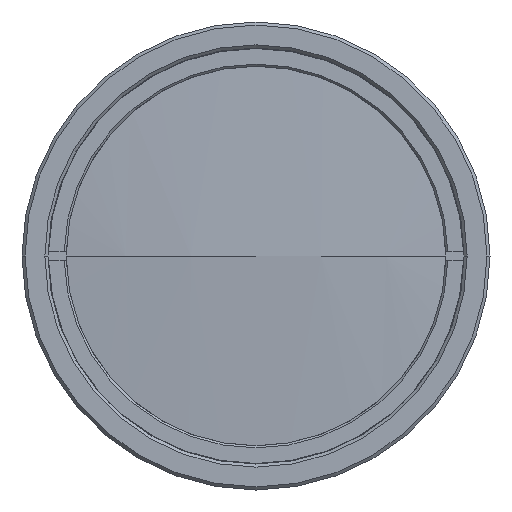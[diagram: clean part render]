
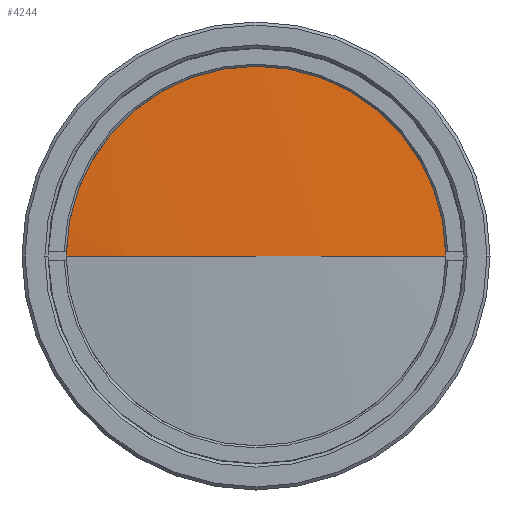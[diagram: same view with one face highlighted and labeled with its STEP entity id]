
A CAD part, left-side view. The second image highlights one B-rep face of the part: STEP entity #4244.
In plain terms, the highlighted spherical face has radius 206.634 mm.
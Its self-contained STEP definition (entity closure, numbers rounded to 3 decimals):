
#1652=CARTESIAN_POINT('',(-62.905,0.,0.));
#1653=DIRECTION('',(1.,0.,0.));
#1654=DIRECTION('',(0.,1.,0.));
#1655=AXIS2_PLACEMENT_3D('',#1652,#1653,#1654);
#1657=CARTESIAN_POINT('',(142.873,0.,0.));
#1658=DIRECTION('',(0.,0.,1.));
#1659=DIRECTION('',(-0.996,0.091,0.));
#1660=AXIS2_PLACEMENT_3D('',#1657,#1658,#1659);
#1662=CARTESIAN_POINT('',(142.873,0.,0.));
#1663=DIRECTION('',(0.,0.,-1.));
#1664=DIRECTION('',(-0.996,-0.091,0.));
#1665=AXIS2_PLACEMENT_3D('',#1662,#1663,#1664);
#1954=CARTESIAN_POINT('',(-62.905,18.78,0.));
#1955=CARTESIAN_POINT('',(-63.761,0.,0.));
#1956=VERTEX_POINT('',#1954);
#1957=VERTEX_POINT('',#1955);
#1958=CARTESIAN_POINT('',(-62.905,-18.78,0.));
#1959=VERTEX_POINT('',#1958);
#4232=CARTESIAN_POINT('',(142.873,0.,0.));
#4233=DIRECTION('',(1.,0.,0.));
#4234=DIRECTION('',(0.,-1.,0.));
#4235=AXIS2_PLACEMENT_3D('',#4232,#4233,#4234);
#4236=SPHERICAL_SURFACE('',#4235,206.634);
#4238=ORIENTED_EDGE('',*,*,#4237,.F.);
#4239=ORIENTED_EDGE('',*,*,#4227,.T.);
#4241=ORIENTED_EDGE('',*,*,#4240,.T.);
#4242=EDGE_LOOP('',(#4238,#4239,#4241));
#4243=FACE_OUTER_BOUND('',#4242,.F.);
#1656=CIRCLE('',#1655,18.78);
#1661=CIRCLE('',#1660,206.634);
#1666=CIRCLE('',#1665,206.634);
#4227=EDGE_CURVE('',#1956,#1959,#1656,.T.);
#4237=EDGE_CURVE('',#1956,#1957,#1661,.T.);
#4240=EDGE_CURVE('',#1959,#1957,#1666,.T.);
#4244=ADVANCED_FACE('',(#4243),#4236,.T.);
